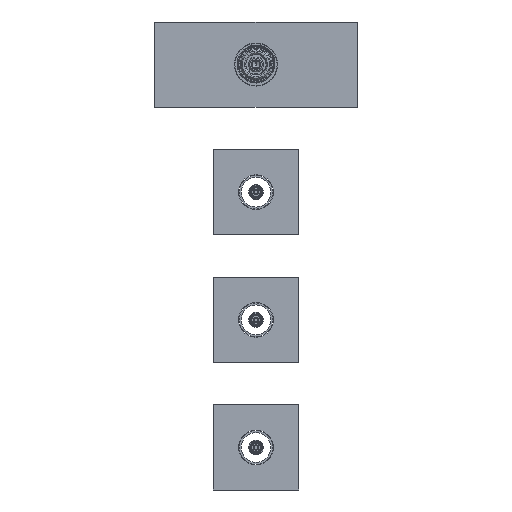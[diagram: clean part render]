
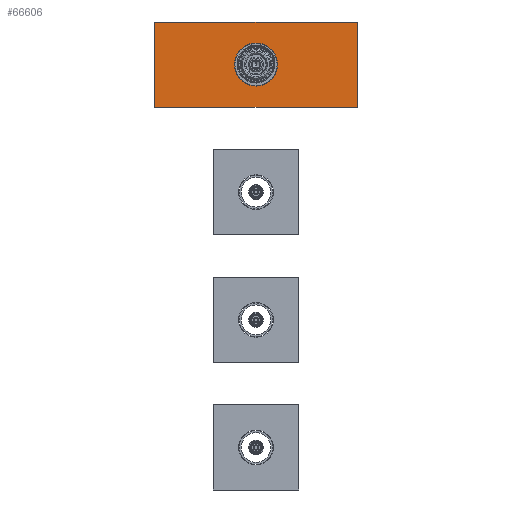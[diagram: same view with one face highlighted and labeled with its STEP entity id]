
A CAD part, front view. The second image highlights one B-rep face of the part: STEP entity #66606.
In plain terms, the highlighted planar face has unit normal (0, -1, 0).
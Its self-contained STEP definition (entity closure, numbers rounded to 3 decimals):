
#58982=DIRECTION('',(0.,0.,1.));
#58983=VECTOR('',#58982,80.);
#58984=CARTESIAN_POINT('',(-95.,84.7,-40.));
#58985=LINE('',#58984,#58983);
#58986=DIRECTION('',(1.,0.,0.));
#58987=VECTOR('',#58986,190.);
#58988=CARTESIAN_POINT('',(-95.,84.7,40.));
#58989=LINE('',#58988,#58987);
#58990=DIRECTION('',(0.,0.,-1.));
#58991=VECTOR('',#58990,80.);
#58992=CARTESIAN_POINT('',(95.,84.7,40.));
#58993=LINE('',#58992,#58991);
#58994=DIRECTION('',(-1.,0.,0.));
#58995=VECTOR('',#58994,190.);
#58996=CARTESIAN_POINT('',(95.,84.7,-40.));
#58997=LINE('',#58996,#58995);
#58998=CARTESIAN_POINT('',(0.,84.7,0.));
#58999=DIRECTION('',(0.,-1.,0.));
#59000=DIRECTION('',(1.,0.,0.));
#59001=AXIS2_PLACEMENT_3D('',#58998,#58999,#59000);
#59003=CARTESIAN_POINT('',(0.,84.7,0.));
#59004=DIRECTION('',(0.,-1.,0.));
#59005=DIRECTION('',(-1.,0.,0.));
#59006=AXIS2_PLACEMENT_3D('',#59003,#59004,#59005);
#63380=CARTESIAN_POINT('',(20.25,84.7,0.));
#63381=CARTESIAN_POINT('',(-20.25,84.7,0.));
#63382=VERTEX_POINT('',#63380);
#63383=VERTEX_POINT('',#63381);
#63384=CARTESIAN_POINT('',(-95.,84.7,-40.));
#63385=CARTESIAN_POINT('',(-95.,84.7,40.));
#63386=VERTEX_POINT('',#63384);
#63387=VERTEX_POINT('',#63385);
#63388=CARTESIAN_POINT('',(95.,84.7,40.));
#63389=VERTEX_POINT('',#63388);
#63390=CARTESIAN_POINT('',(95.,84.7,-40.));
#63391=VERTEX_POINT('',#63390);
#66586=CARTESIAN_POINT('',(0.,84.7,0.));
#66587=DIRECTION('',(0.,1.,0.));
#66588=DIRECTION('',(1.,0.,0.));
#66589=AXIS2_PLACEMENT_3D('',#66586,#66587,#66588);
#66590=PLANE('',#66589);
#66591=ORIENTED_EDGE('',*,*,#66576,.T.);
#66593=ORIENTED_EDGE('',*,*,#66592,.T.);
#66595=ORIENTED_EDGE('',*,*,#66594,.T.);
#66597=ORIENTED_EDGE('',*,*,#66596,.T.);
#66598=EDGE_LOOP('',(#66591,#66593,#66595,#66597));
#66599=FACE_OUTER_BOUND('',#66598,.F.);
#66601=ORIENTED_EDGE('',*,*,#66600,.T.);
#66603=ORIENTED_EDGE('',*,*,#66602,.T.);
#66604=EDGE_LOOP('',(#66601,#66603));
#66605=FACE_BOUND('',#66604,.F.);
#66606=ADVANCED_FACE('',(#66599,#66605),#66590,.F.);
#59002=CIRCLE('',#59001,20.25);
#59007=CIRCLE('',#59006,20.25);
#66576=EDGE_CURVE('',#63386,#63387,#58985,.T.);
#66592=EDGE_CURVE('',#63387,#63389,#58989,.T.);
#66594=EDGE_CURVE('',#63389,#63391,#58993,.T.);
#66596=EDGE_CURVE('',#63391,#63386,#58997,.T.);
#66600=EDGE_CURVE('',#63382,#63383,#59002,.T.);
#66602=EDGE_CURVE('',#63383,#63382,#59007,.T.);
